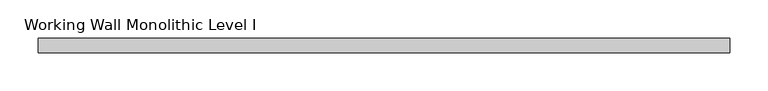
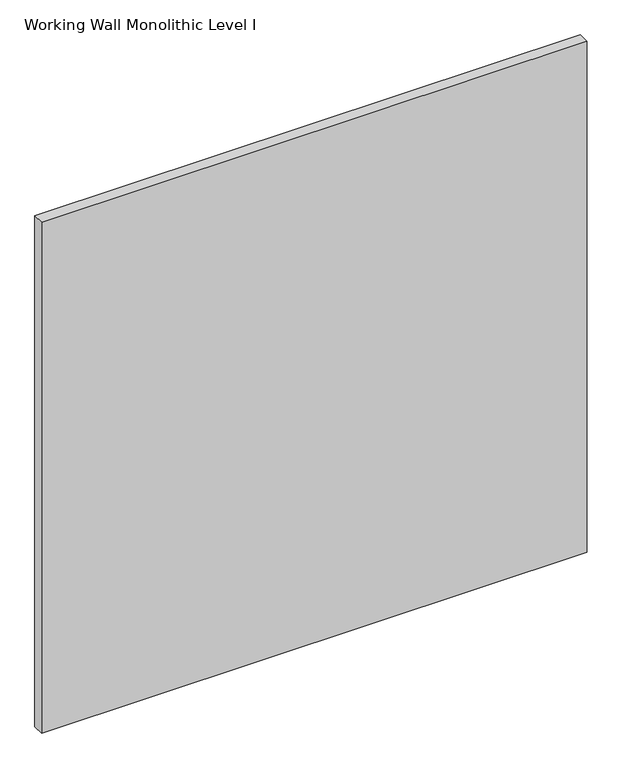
"""IFC4 building model written with IfcOpenShell, lengths in millimetres: proxy geometry, Panel-Fascia-Teknion-Altos-Standard : Working Wall Monolithic Level I."""

from ifc_helpers import new_model, si_unit, frame, origin, place, context, project, spatial, polyline, outline, extrude, source, transform, mapped, element, save


def working_wall_monolithic_level_i_39047d6b(model_context):
    return source(origin(), model_context, "Body", "SweptSolid", [
        extrude(outline(polyline([(454.0305563, 9.525), (454.0305563, -9.525), (-454.0305562, -9.525), (-454.0305562, 9.525), (454.0305563, 9.525)])), frame((0.0, 0.0, 3.175), z_axis=(0.0, 0.0, 1.0), x_axis=(1.0, 0.0, 0.0)), (0.0, 0.0, 1.0), 898.525),
    ])


if __name__ == "__main__":
    model = new_model("IFC4")
    model_context = context("Model", 3, world=origin())
    ifc_project = project(units=[si_unit("LENGTHUNIT", "METRE", prefix="MILLI")], contexts=[model_context])
    site = spatial("IfcSite", under=ifc_project)
    building = spatial("IfcBuilding", under=site)
    placement = place(None, origin())
    working_wall_monolithic_level_i_shape = working_wall_monolithic_level_i_39047d6b(model_context)
    element("IfcBuildingElementProxy", 1, Name="Panel-Fascia-Teknion-Altos-Standard : Working Wall Monolithic Level I", ObjectType="Panel-Fascia-Teknion-Altos-Standard : Working Wall Monolithic Level I", at=placement, inside=building, context=model_context, shape_type="MappedRepresentation", body=[
        mapped(working_wall_monolithic_level_i_shape, transform((0.0, 0.0, 0.0), x_axis=(1.0, 0.0, 0.0), y_axis=(0.0, 1.0, 0.0), z_axis=(0.0, 0.0, 1.0))),
    ])
    save(model, "model.ifc")
